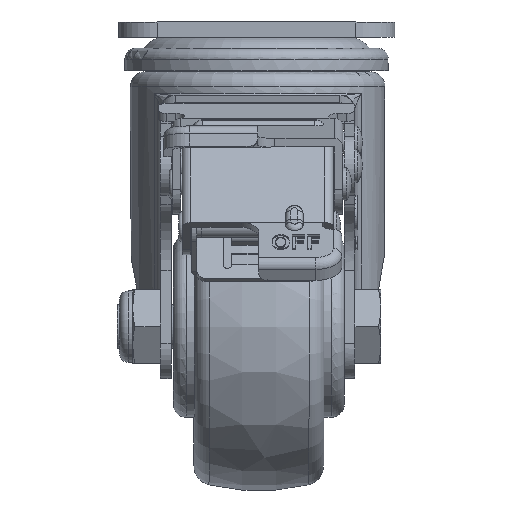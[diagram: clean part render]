
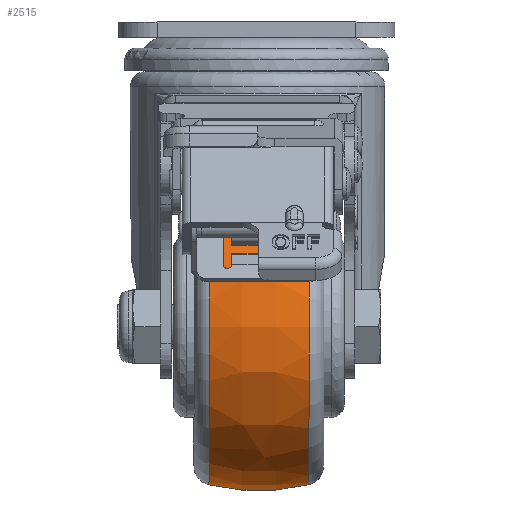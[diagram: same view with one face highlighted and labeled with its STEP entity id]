
A CAD part, left-side view. The second image highlights one B-rep face of the part: STEP entity #2515.
In plain terms, the highlighted free-form (B-spline) face has degree [3, 3] with [4, 7] control points.
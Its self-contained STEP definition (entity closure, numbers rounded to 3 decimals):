
#141=(
BOUNDED_SURFACE()
B_SPLINE_SURFACE(3,3,((#37868,#37869,#37870,#37871,#37872,#37873,#37874),
(#37875,#37876,#37877,#37878,#37879,#37880,#37881),(#37882,#37883,#37884,
#37885,#37886,#37887,#37888),(#37889,#37890,#37891,#37892,#37893,#37894,
#37895)),.UNSPECIFIED.,.F.,.T.,.F.)
B_SPLINE_SURFACE_WITH_KNOTS((4,4),(1,3,3,3,1),(0.,1.),(-0.5,0.,0.5,1.,1.5),
 .UNSPECIFIED.)
GEOMETRIC_REPRESENTATION_ITEM()
RATIONAL_B_SPLINE_SURFACE(((1.,0.333,0.333,1.,0.333,
0.333,1.),(0.982,0.327,0.327,
0.982,0.327,0.327,0.982),
(0.982,0.327,0.327,0.982,
0.327,0.327,0.982),(1.,0.333,
0.333,1.,0.333,0.333,1.)))
REPRESENTATION_ITEM('')
SURFACE()
);
#2515=ADVANCED_FACE('',(#4304,#4305),#141,.T.);
#4304=FACE_BOUND('',#5591,.T.);
#4305=FACE_BOUND('',#5592,.T.);
#5591=EDGE_LOOP('',(#12965));
#5592=EDGE_LOOP('',(#12966));
#12965=ORIENTED_EDGE('',*,*,#18148,.F.);
#12966=ORIENTED_EDGE('',*,*,#18147,.T.);
#15472=VERTEX_POINT('',#37864);
#15473=VERTEX_POINT('',#37867);
#18147=EDGE_CURVE('',#15472,#15472,#19174,.T.);
#18148=EDGE_CURVE('',#15473,#15473,#19175,.T.);
#19174=CIRCLE('',#20924,36.653);
#19175=CIRCLE('',#20926,36.653);
#20924=AXIS2_PLACEMENT_3D('',#37863,#25581,#25582);
#20926=AXIS2_PLACEMENT_3D('',#37866,#25585,#25586);
#25581=DIRECTION('',(0.003,-1.,0.));
#25582=DIRECTION('',(-1.,-0.003,0.));
#25585=DIRECTION('',(0.003,-1.,0.));
#25586=DIRECTION('',(-1.,-0.003,0.));
#37863=CARTESIAN_POINT('',(-34.098,11.037,-70.5));
#37864=CARTESIAN_POINT('',(-70.751,10.914,-70.5));
#37866=CARTESIAN_POINT('',(-34.021,-12.037,-70.5));
#37867=CARTESIAN_POINT('',(-70.673,-12.16,-70.5));
#37868=CARTESIAN_POINT('',(-70.673,-12.16,-70.5));
#37869=CARTESIAN_POINT('',(-70.673,-12.16,-143.805));
#37870=CARTESIAN_POINT('',(2.631,-11.914,-143.805));
#37871=CARTESIAN_POINT('',(2.631,-11.914,-70.5));
#37872=CARTESIAN_POINT('',(2.631,-11.914,2.805));
#37873=CARTESIAN_POINT('',(-70.673,-12.16,2.805));
#37874=CARTESIAN_POINT('',(-70.673,-12.16,-70.5));
#37875=CARTESIAN_POINT('',(-72.504,-4.545,-70.5));
#37876=CARTESIAN_POINT('',(-72.504,-4.545,-147.415));
#37877=CARTESIAN_POINT('',(4.411,-4.287,-147.415));
#37878=CARTESIAN_POINT('',(4.411,-4.287,-70.5));
#37879=CARTESIAN_POINT('',(4.411,-4.287,6.415));
#37880=CARTESIAN_POINT('',(-72.504,-4.545,6.415));
#37881=CARTESIAN_POINT('',(-72.504,-4.545,-70.5));
#37882=CARTESIAN_POINT('',(-72.53,3.286,-70.5));
#37883=CARTESIAN_POINT('',(-72.53,3.286,-147.415));
#37884=CARTESIAN_POINT('',(4.384,3.545,-147.415));
#37885=CARTESIAN_POINT('',(4.384,3.545,-70.5));
#37886=CARTESIAN_POINT('',(4.384,3.545,6.415));
#37887=CARTESIAN_POINT('',(-72.53,3.286,6.415));
#37888=CARTESIAN_POINT('',(-72.53,3.286,-70.5));
#37889=CARTESIAN_POINT('',(-70.751,10.914,-70.5));
#37890=CARTESIAN_POINT('',(-70.751,10.914,-143.805));
#37891=CARTESIAN_POINT('',(2.554,11.16,-143.805));
#37892=CARTESIAN_POINT('',(2.554,11.16,-70.5));
#37893=CARTESIAN_POINT('',(2.554,11.16,2.805));
#37894=CARTESIAN_POINT('',(-70.751,10.914,2.805));
#37895=CARTESIAN_POINT('',(-70.751,10.914,-70.5));
